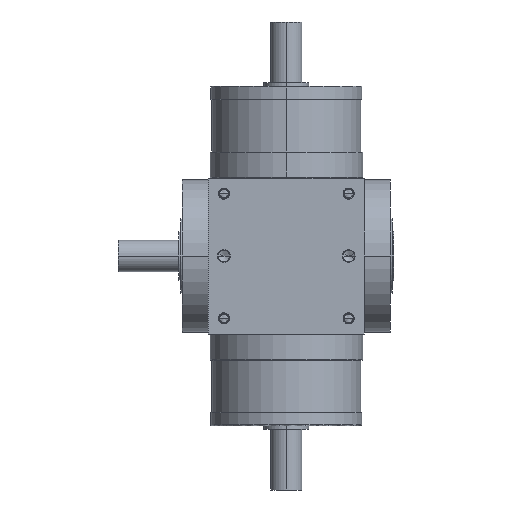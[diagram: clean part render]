
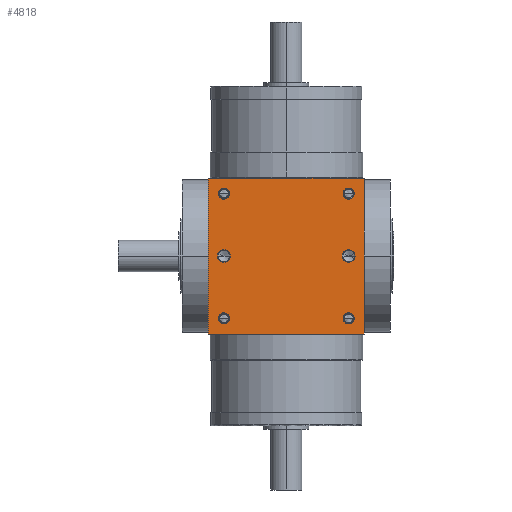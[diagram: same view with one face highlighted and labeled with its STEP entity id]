
A CAD part, front view. The second image highlights one B-rep face of the part: STEP entity #4818.
In plain terms, the highlighted planar face has unit normal (0, -1, 0).
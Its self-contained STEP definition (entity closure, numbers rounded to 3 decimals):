
#5=DIRECTION('',(1.,0.,0.));
#6=VECTOR('',#5,90.);
#7=CARTESIAN_POINT('',(-45.,-45.,-45.));
#8=LINE('',#7,#6);
#165=DIRECTION('',(0.,0.,1.));
#166=VECTOR('',#165,90.);
#167=CARTESIAN_POINT('',(45.,-45.,-45.));
#168=LINE('',#167,#166);
#219=DIRECTION('',(0.,0.,1.));
#220=VECTOR('',#219,90.);
#221=CARTESIAN_POINT('',(-45.,-45.,-45.));
#222=LINE('',#221,#220);
#223=CARTESIAN_POINT('',(36.,-45.,36.));
#224=DIRECTION('',(0.,1.,0.));
#225=DIRECTION('',(-1.,0.,0.));
#226=AXIS2_PLACEMENT_3D('',#223,#224,#225);
#228=CARTESIAN_POINT('',(36.,-45.,36.));
#229=DIRECTION('',(0.,1.,0.));
#230=DIRECTION('',(1.,0.,0.));
#231=AXIS2_PLACEMENT_3D('',#228,#229,#230);
#233=CARTESIAN_POINT('',(-36.,-45.,36.));
#234=DIRECTION('',(0.,1.,0.));
#235=DIRECTION('',(-1.,0.,0.));
#236=AXIS2_PLACEMENT_3D('',#233,#234,#235);
#238=CARTESIAN_POINT('',(-36.,-45.,36.));
#239=DIRECTION('',(0.,1.,0.));
#240=DIRECTION('',(1.,0.,0.));
#241=AXIS2_PLACEMENT_3D('',#238,#239,#240);
#243=CARTESIAN_POINT('',(36.,-45.,-36.));
#244=DIRECTION('',(0.,1.,0.));
#245=DIRECTION('',(-1.,0.,0.));
#246=AXIS2_PLACEMENT_3D('',#243,#244,#245);
#248=CARTESIAN_POINT('',(36.,-45.,-36.));
#249=DIRECTION('',(0.,1.,0.));
#250=DIRECTION('',(1.,0.,0.));
#251=AXIS2_PLACEMENT_3D('',#248,#249,#250);
#253=CARTESIAN_POINT('',(-36.,-45.,-36.));
#254=DIRECTION('',(0.,1.,0.));
#255=DIRECTION('',(-1.,0.,0.));
#256=AXIS2_PLACEMENT_3D('',#253,#254,#255);
#258=CARTESIAN_POINT('',(-36.,-45.,-36.));
#259=DIRECTION('',(0.,1.,0.));
#260=DIRECTION('',(1.,0.,0.));
#261=AXIS2_PLACEMENT_3D('',#258,#259,#260);
#263=CARTESIAN_POINT('',(-36.,-45.,0.));
#264=DIRECTION('',(0.,1.,0.));
#265=DIRECTION('',(1.,0.,0.));
#266=AXIS2_PLACEMENT_3D('',#263,#264,#265);
#268=CARTESIAN_POINT('',(-36.,-45.,0.));
#269=DIRECTION('',(0.,1.,0.));
#270=DIRECTION('',(-1.,0.,0.));
#271=AXIS2_PLACEMENT_3D('',#268,#269,#270);
#273=CARTESIAN_POINT('',(36.,-45.,0.));
#274=DIRECTION('',(0.,1.,0.));
#275=DIRECTION('',(1.,0.,0.));
#276=AXIS2_PLACEMENT_3D('',#273,#274,#275);
#278=CARTESIAN_POINT('',(36.,-45.,0.));
#279=DIRECTION('',(0.,1.,0.));
#280=DIRECTION('',(-1.,0.,0.));
#281=AXIS2_PLACEMENT_3D('',#278,#279,#280);
#295=DIRECTION('',(1.,0.,0.));
#296=VECTOR('',#295,90.);
#297=CARTESIAN_POINT('',(-45.,-45.,45.));
#298=LINE('',#297,#296);
#3840=CARTESIAN_POINT('',(-45.,-45.,-45.));
#3842=VERTEX_POINT('',#3840);
#3843=CARTESIAN_POINT('',(45.,-45.,-45.));
#3844=VERTEX_POINT('',#3843);
#3848=CARTESIAN_POINT('',(-45.,-45.,45.));
#3850=VERTEX_POINT('',#3848);
#3851=CARTESIAN_POINT('',(45.,-45.,45.));
#3852=VERTEX_POINT('',#3851);
#4023=CARTESIAN_POINT('',(32.8,-45.,36.));
#4024=CARTESIAN_POINT('',(39.2,-45.,36.));
#4025=VERTEX_POINT('',#4023);
#4026=VERTEX_POINT('',#4024);
#4031=CARTESIAN_POINT('',(-39.2,-45.,36.));
#4032=CARTESIAN_POINT('',(-32.8,-45.,36.));
#4033=VERTEX_POINT('',#4031);
#4034=VERTEX_POINT('',#4032);
#4039=CARTESIAN_POINT('',(32.8,-45.,-36.));
#4040=CARTESIAN_POINT('',(39.2,-45.,-36.));
#4041=VERTEX_POINT('',#4039);
#4042=VERTEX_POINT('',#4040);
#4047=CARTESIAN_POINT('',(-39.2,-45.,-36.));
#4048=CARTESIAN_POINT('',(-32.8,-45.,-36.));
#4049=VERTEX_POINT('',#4047);
#4050=VERTEX_POINT('',#4048);
#4389=CARTESIAN_POINT('',(-32.35,-45.,0.));
#4390=CARTESIAN_POINT('',(-39.65,-45.,
0.));
#4391=VERTEX_POINT('',#4389);
#4392=VERTEX_POINT('',#4390);
#4397=CARTESIAN_POINT('',(39.65,-45.,0.));
#4398=CARTESIAN_POINT('',(32.35,-45.,0.));
#4399=VERTEX_POINT('',#4397);
#4400=VERTEX_POINT('',#4398);
#4770=CARTESIAN_POINT('',(-45.,-45.,-45.));
#4771=DIRECTION('',(0.,-1.,0.));
#4772=DIRECTION('',(1.,0.,0.));
#4773=AXIS2_PLACEMENT_3D('',#4770,#4771,#4772);
#4774=PLANE('',#4773);
#4775=ORIENTED_EDGE('',*,*,#4604,.F.);
#4776=ORIENTED_EDGE('',*,*,#4653,.T.);
#4778=ORIENTED_EDGE('',*,*,#4777,.T.);
#4779=ORIENTED_EDGE('',*,*,#4732,.F.);
#4780=EDGE_LOOP('',(#4775,#4776,#4778,#4779));
#4781=FACE_OUTER_BOUND('',#4780,.F.);
#4783=ORIENTED_EDGE('',*,*,#4782,.F.);
#4785=ORIENTED_EDGE('',*,*,#4784,.F.);
#4786=EDGE_LOOP('',(#4783,#4785));
#4787=FACE_BOUND('',#4786,.F.);
#4789=ORIENTED_EDGE('',*,*,#4788,.F.);
#4791=ORIENTED_EDGE('',*,*,#4790,.F.);
#4792=EDGE_LOOP('',(#4789,#4791));
#4793=FACE_BOUND('',#4792,.F.);
#4795=ORIENTED_EDGE('',*,*,#4794,.F.);
#4797=ORIENTED_EDGE('',*,*,#4796,.F.);
#4798=EDGE_LOOP('',(#4795,#4797));
#4799=FACE_BOUND('',#4798,.F.);
#4801=ORIENTED_EDGE('',*,*,#4800,.F.);
#4803=ORIENTED_EDGE('',*,*,#4802,.F.);
#4804=EDGE_LOOP('',(#4801,#4803));
#4805=FACE_BOUND('',#4804,.F.);
#4807=ORIENTED_EDGE('',*,*,#4806,.F.);
#4809=ORIENTED_EDGE('',*,*,#4808,.F.);
#4810=EDGE_LOOP('',(#4807,#4809));
#4811=FACE_BOUND('',#4810,.F.);
#4813=ORIENTED_EDGE('',*,*,#4812,.F.);
#4815=ORIENTED_EDGE('',*,*,#4814,.F.);
#4816=EDGE_LOOP('',(#4813,#4815));
#4817=FACE_BOUND('',#4816,.F.);
#4818=ADVANCED_FACE('',(#4781,#4787,#4793,#4799,#4805,#4811,#4817),#4774,.T.);
#227=CIRCLE('',#226,3.2);
#232=CIRCLE('',#231,3.2);
#237=CIRCLE('',#236,3.2);
#242=CIRCLE('',#241,3.2);
#247=CIRCLE('',#246,3.2);
#252=CIRCLE('',#251,3.2);
#257=CIRCLE('',#256,3.2);
#262=CIRCLE('',#261,3.2);
#267=CIRCLE('',#266,3.65);
#272=CIRCLE('',#271,3.65);
#277=CIRCLE('',#276,3.65);
#282=CIRCLE('',#281,3.65);
#4604=EDGE_CURVE('',#3842,#3844,#8,.T.);
#4653=EDGE_CURVE('',#3842,#3850,#222,.T.);
#4732=EDGE_CURVE('',#3844,#3852,#168,.T.);
#4777=EDGE_CURVE('',#3850,#3852,#298,.T.);
#4782=EDGE_CURVE('',#4025,#4026,#227,.T.);
#4784=EDGE_CURVE('',#4026,#4025,#232,.T.);
#4788=EDGE_CURVE('',#4033,#4034,#237,.T.);
#4790=EDGE_CURVE('',#4034,#4033,#242,.T.);
#4794=EDGE_CURVE('',#4041,#4042,#247,.T.);
#4796=EDGE_CURVE('',#4042,#4041,#252,.T.);
#4800=EDGE_CURVE('',#4049,#4050,#257,.T.);
#4802=EDGE_CURVE('',#4050,#4049,#262,.T.);
#4806=EDGE_CURVE('',#4391,#4392,#267,.T.);
#4808=EDGE_CURVE('',#4392,#4391,#272,.T.);
#4812=EDGE_CURVE('',#4399,#4400,#277,.T.);
#4814=EDGE_CURVE('',#4400,#4399,#282,.T.);
